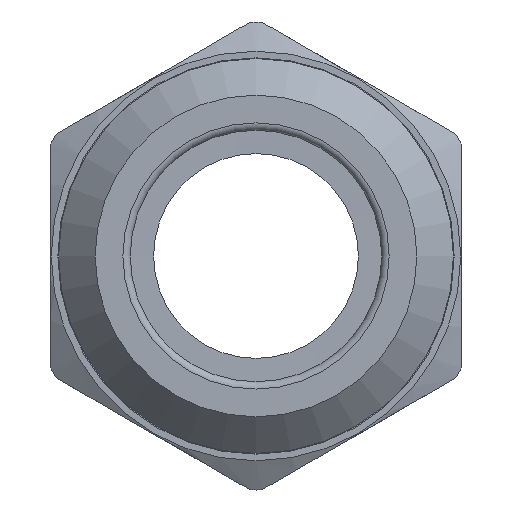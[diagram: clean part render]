
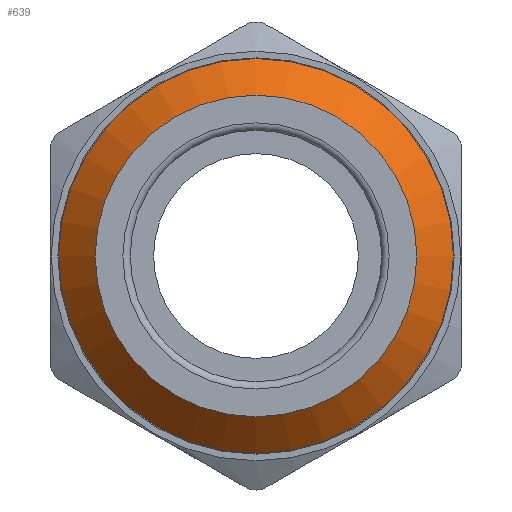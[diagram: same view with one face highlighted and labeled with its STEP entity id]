
A CAD part, front view. The second image highlights one B-rep face of the part: STEP entity #639.
In plain terms, the highlighted conical face has half-angle 45 degrees and reference radius 6.223 mm.
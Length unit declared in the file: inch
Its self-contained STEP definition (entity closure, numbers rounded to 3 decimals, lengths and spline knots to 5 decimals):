
#86=FACE_OUTER_BOUND('',#128,.T.);
#128=EDGE_LOOP('',(#504,#505,#506,#507,#508));
#160=LINE('',#1081,#186);
#186=VECTOR('',#882,0.245);
#233=CIRCLE('',#720,0.22);
#236=CIRCLE('',#725,0.27);
#237=CIRCLE('',#726,0.27);
#289=VERTEX_POINT('',#1071);
#292=VERTEX_POINT('',#1080);
#293=VERTEX_POINT('',#1082);
#366=EDGE_CURVE('',#289,#289,#233,.T.);
#370=EDGE_CURVE('',#289,#292,#160,.T.);
#371=EDGE_CURVE('',#292,#293,#236,.T.);
#372=EDGE_CURVE('',#293,#292,#237,.T.);
#504=ORIENTED_EDGE('',*,*,#366,.T.);
#505=ORIENTED_EDGE('',*,*,#370,.T.);
#506=ORIENTED_EDGE('',*,*,#371,.T.);
#507=ORIENTED_EDGE('',*,*,#372,.T.);
#508=ORIENTED_EDGE('',*,*,#370,.F.);
#620=CONICAL_SURFACE('',#724,0.245,0.785);
#639=ADVANCED_FACE('',(#86),#620,.T.);
#720=AXIS2_PLACEMENT_3D('',#1072,#871,#872);
#724=AXIS2_PLACEMENT_3D('',#1079,#880,#881);
#725=AXIS2_PLACEMENT_3D('',#1083,#883,#884);
#726=AXIS2_PLACEMENT_3D('',#1084,#885,#886);
#871=DIRECTION('center_axis',(0.,1.,0.));
#872=DIRECTION('ref_axis',(0.,0.,1.));
#880=DIRECTION('center_axis',(0.,1.,0.));
#881=DIRECTION('ref_axis',(0.,0.,1.));
#882=DIRECTION('',(0.,0.707,-0.707));
#883=DIRECTION('center_axis',(0.,-1.,0.));
#884=DIRECTION('ref_axis',(0.,0.,1.));
#885=DIRECTION('center_axis',(0.,-1.,0.));
#886=DIRECTION('ref_axis',(0.,0.,1.));
#1071=CARTESIAN_POINT('',(0.,-0.785,-0.22));
#1072=CARTESIAN_POINT('Origin',(0.,-0.785,0.));
#1079=CARTESIAN_POINT('Origin',(0.,-0.76,0.));
#1080=CARTESIAN_POINT('',(0.,-0.735,-0.27));
#1081=CARTESIAN_POINT('',(0.,-0.76,-0.245));
#1082=CARTESIAN_POINT('',(0.,-0.735,0.27));
#1083=CARTESIAN_POINT('Origin',(0.,-0.735,0.));
#1084=CARTESIAN_POINT('Origin',(0.,-0.735,0.));
